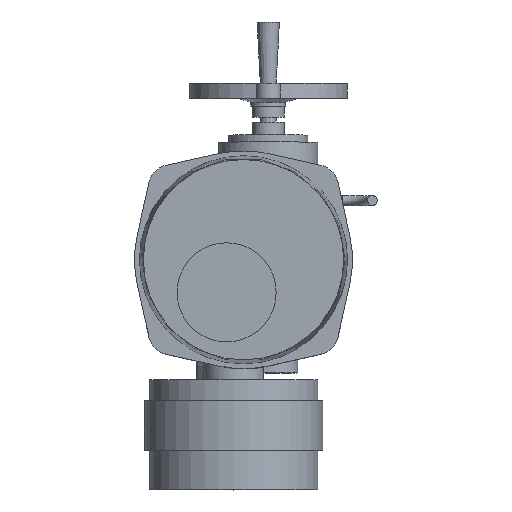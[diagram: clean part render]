
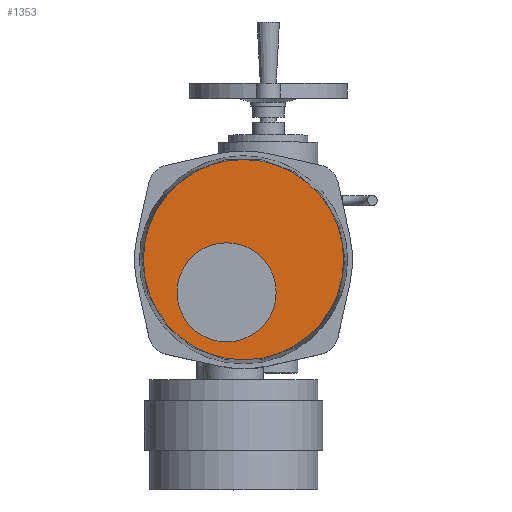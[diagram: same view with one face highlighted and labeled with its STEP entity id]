
A CAD part, top view. The second image highlights one B-rep face of the part: STEP entity #1353.
In plain terms, the highlighted planar face has unit normal (0, 0, 1).
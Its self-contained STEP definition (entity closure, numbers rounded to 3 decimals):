
#1353=ADVANCED_FACE('',(#2832,#2834),#2836,.T.);
#2832=FACE_BOUND('',#2833,.T.);
#2833=EDGE_LOOP('',(#3763));
#2834=FACE_BOUND('',#2835,.T.);
#2835=EDGE_LOOP('',(#3764));
#2836=PLANE('',#2837);
#2837=AXIS2_PLACEMENT_3D('',#2838,#2839,#2840);
#2838=CARTESIAN_POINT('',(20.,40.,458.));
#2839=DIRECTION('',(0.,0.,1.));
#2840=DIRECTION('',(-1.,0.,0.));
#3763=ORIENTED_EDGE('',*,*,#4201,.T.);
#3764=ORIENTED_EDGE('',*,*,#4212,.F.);
#4201=EDGE_CURVE('',#4810,#4810,#4811,.T.);
#4212=EDGE_CURVE('',#4824,#4824,#4825,.T.);
#4810=VERTEX_POINT('',#8059);
#4811=CIRCLE('',#8060,101.069);
#4824=VERTEX_POINT('',#8102);
#4825=CIRCLE('',#8103,50.);
#8059=CARTESIAN_POINT('',(-81.069,40.,458.));
#8060=AXIS2_PLACEMENT_3D('',#8061,#8062,#8063);
#8061=CARTESIAN_POINT('',(20.,40.,458.));
#8062=DIRECTION('',(0.,0.,1.));
#8063=DIRECTION('',(-1.,0.,0.));
#8102=CARTESIAN_POINT('',(-47.,7.,458.));
#8103=AXIS2_PLACEMENT_3D('',#8104,#8105,#8106);
#8104=CARTESIAN_POINT('',(3.,7.,458.));
#8105=DIRECTION('',(0.,0.,1.));
#8106=DIRECTION('',(-1.,0.,0.));
